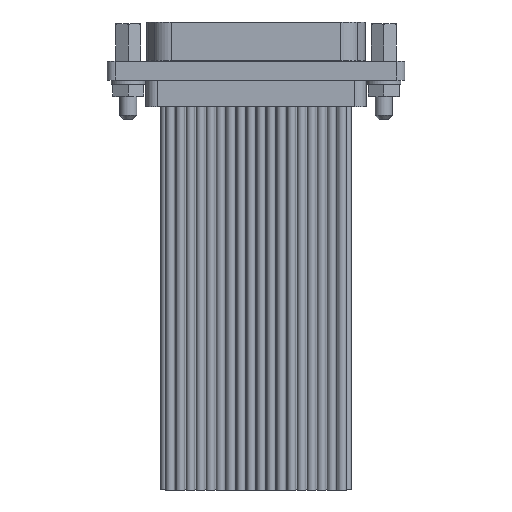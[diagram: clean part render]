
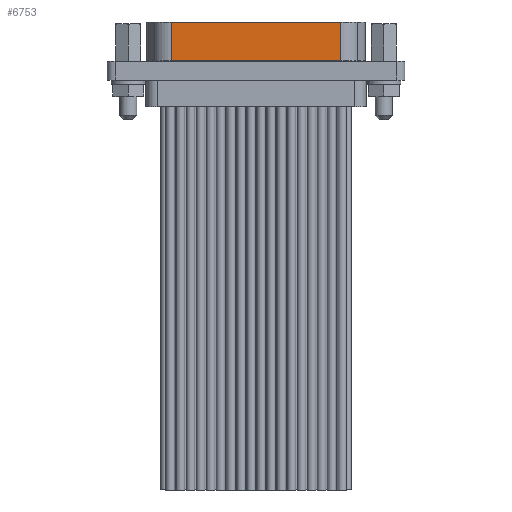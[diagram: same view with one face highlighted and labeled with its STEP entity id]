
A CAD part, front view. The second image highlights one B-rep face of the part: STEP entity #6753.
In plain terms, the highlighted planar face has unit normal (0, -1, 0).
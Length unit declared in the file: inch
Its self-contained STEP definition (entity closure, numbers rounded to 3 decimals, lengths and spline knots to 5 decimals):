
#886 = LINE ( 'NONE', #11993, #39762 ) ;
#3005 = CARTESIAN_POINT ( 'NONE',  ( 0.6975, -0.1176, 0.235 ) ) ;
#5837 = DIRECTION ( 'NONE',  ( 0., -1., 0. ) ) ;
#6753 = ADVANCED_FACE ( 'NONE', ( #42217 ), #31405, .T. ) ;
#10806 = VERTEX_POINT ( 'NONE', #37374 ) ;
#11993 = CARTESIAN_POINT ( 'NONE',  ( 0.42056, -0.1176, 0.235 ) ) ;
#12747 = VECTOR ( 'NONE', #44231, 39.37008 ) ;
#12769 = CARTESIAN_POINT ( 'NONE',  ( -0.42056, -0.1176, 0.045 ) ) ;
#12786 = ORIENTED_EDGE ( 'NONE', *, *, #31388, .T. ) ;
#13889 = EDGE_CURVE ( 'NONE', #43485, #41604, #23430, .T. ) ;
#13948 = CARTESIAN_POINT ( 'NONE',  ( 0.42056, -0.1176, 0.235 ) ) ;
#15636 = CARTESIAN_POINT ( 'NONE',  ( -0.42056, -0.1176, 0.235 ) ) ;
#16093 = AXIS2_PLACEMENT_3D ( 'NONE', #38243, #5837, #41990 ) ;
#23430 = LINE ( 'NONE', #15636, #27988 ) ;
#27657 = CARTESIAN_POINT ( 'NONE',  ( -0.42056, -0.1176, 0.235 ) ) ;
#27988 = VECTOR ( 'NONE', #41822, 39.37008 ) ;
#30068 = CARTESIAN_POINT ( 'NONE',  ( 0.6975, -0.1176, 0.045 ) ) ;
#30646 = ORIENTED_EDGE ( 'NONE', *, *, #40383, .T. ) ;
#31388 = EDGE_CURVE ( 'NONE', #31629, #43485, #35481, .T. ) ;
#31405 = PLANE ( 'NONE',  #16093 ) ;
#31629 = VERTEX_POINT ( 'NONE', #13948 ) ;
#32864 = EDGE_CURVE ( 'NONE', #31629, #10806, #886, .T. ) ;
#33881 = LINE ( 'NONE', #30068, #12747 ) ;
#35248 = EDGE_LOOP ( 'NONE', ( #37880, #30646, #46089, #12786 ) ) ;
#35481 = LINE ( 'NONE', #3005, #44094 ) ;
#37374 = CARTESIAN_POINT ( 'NONE',  ( 0.42056, -0.1176, 0.045 ) ) ;
#37880 = ORIENTED_EDGE ( 'NONE', *, *, #13889, .T. ) ;
#38243 = CARTESIAN_POINT ( 'NONE',  ( 0.6975, -0.1176, 0.235 ) ) ;
#39762 = VECTOR ( 'NONE', #40397, 39.37008 ) ;
#40383 = EDGE_CURVE ( 'NONE', #41604, #10806, #33881, .T. ) ;
#40397 = DIRECTION ( 'NONE',  ( 0., 0., -1. ) ) ;
#41604 = VERTEX_POINT ( 'NONE', #12769 ) ;
#41822 = DIRECTION ( 'NONE',  ( 0., 0., -1. ) ) ;
#41990 = DIRECTION ( 'NONE',  ( 0., 0., 1. ) ) ;
#42217 = FACE_OUTER_BOUND ( 'NONE', #35248, .T. ) ;
#43485 = VERTEX_POINT ( 'NONE', #27657 ) ;
#44094 = VECTOR ( 'NONE', #46270, 39.37008 ) ;
#44231 = DIRECTION ( 'NONE',  ( 1., 0., 0. ) ) ;
#46089 = ORIENTED_EDGE ( 'NONE', *, *, #32864, .F. ) ;
#46270 = DIRECTION ( 'NONE',  ( -1., 0., 0. ) ) ;
